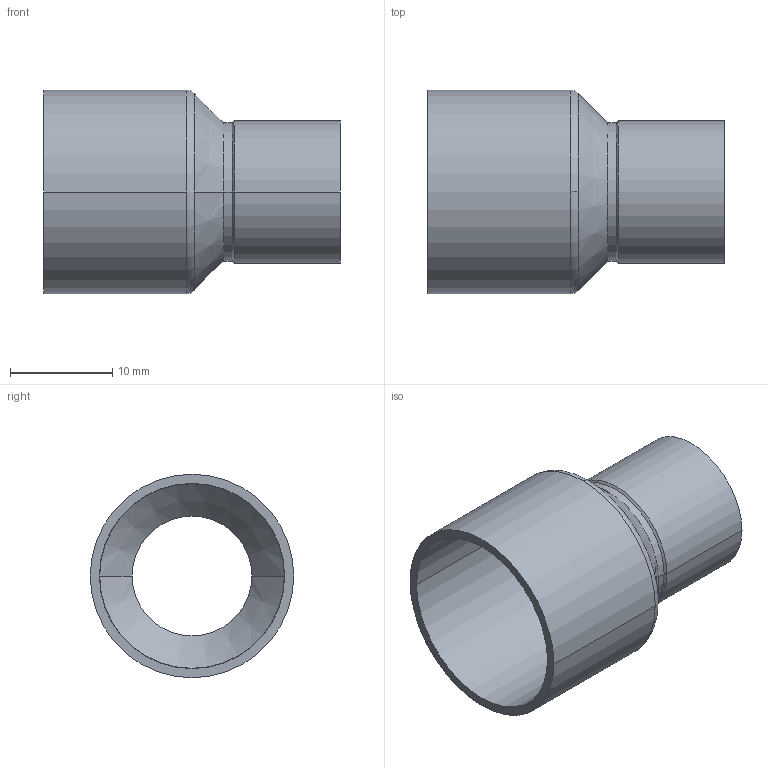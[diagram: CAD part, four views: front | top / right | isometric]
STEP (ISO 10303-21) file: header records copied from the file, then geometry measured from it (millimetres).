
FILE_DESCRIPTION((''),'2;1');
FILE_NAME('G:\Technics\CAD\Bauteile\Serie 15240\152401812.stp','2005-10-21T12:51:05',('boden'),(''),'Autodesk Inventor 8','Autodesk Inventor 8','');
FILE_SCHEMA(('AUTOMOTIVE_DESIGN { 1 0 10303 214 1 1 1 1 }'));
Length unit declared in the file: millimetre
Products named in the file (1): 152401812
Bounding box: 29 x 19.91 x 19.91 mm (x, y, z)
Volume: 1392.9 mm3; surface area: 3185.8 mm2
Topology: 1 solids, 1 shells, 26 faces, 60 edges, 36 vertices
Faces by surface type: cylinder 12, cone 8, torus 2, bspline 2, plane 2
Entity records: 855 total; most frequent: CARTESIAN_POINT 211, DIRECTION 150, ORIENTED_EDGE 120, AXIS2_PLACEMENT_3D 65, EDGE_CURVE 60, CIRCLE 40, VERTEX_POINT 36, EDGE_LOOP 28
